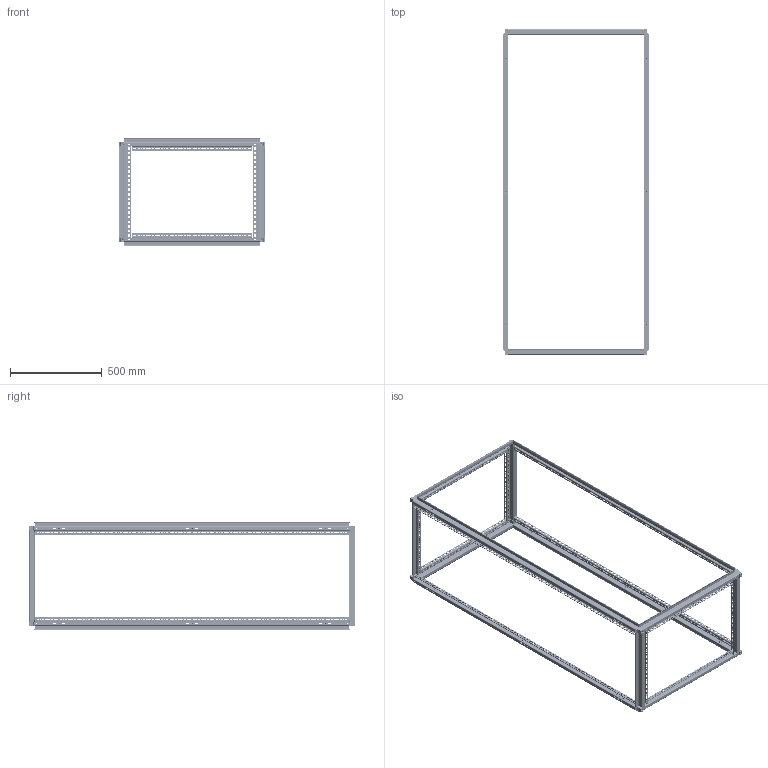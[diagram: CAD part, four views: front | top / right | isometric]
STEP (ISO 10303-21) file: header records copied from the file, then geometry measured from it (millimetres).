
FILE_DESCRIPTION (( 'STEP AP203' ), '1' );
FILE_NAME ('pf1886.STEP', '2010-04-15T16:47:25', ( 'Hoffman User' ), ( 'Hoffman Enclosures' ), 'SwSTEP 2.0', 'SolidWorks 2009', '' );
FILE_SCHEMA (( 'CONFIG_CONTROL_DESIGN' ));
Length unit declared in the file: inch
Products named in the file (7): 30127010; 60127013; pf1886; 20127059; 30127079; 30127058; 60127024_As installed
Assembly tree (33 placements, depth 3):
  pf1886
    60127024_As installed  x12
    20127059
      30127010  x4
      30127079  x4
      60127013  x8
      30127058  x4
Bounding box: 798.8 x 1780 x 587.8 mm (x, y, z)
Volume: 3651909.4 mm3; surface area: 3111474.6 mm2
Topology: 32 solids, 32 shells, 8740 faces, 25812 edges, 17040 vertices
Faces by surface type: plane 5604, cylinder 2992, torus 96, cone 48
Entity records: 63438 total; most frequent: CARTESIAN_POINT 10845, ORIENTED_EDGE 10618, DIRECTION 10125, EDGE_CURVE 5309, LINE 4083, VECTOR 4083, VERTEX_POINT 3511, AXIS2_PLACEMENT_3D 3021
